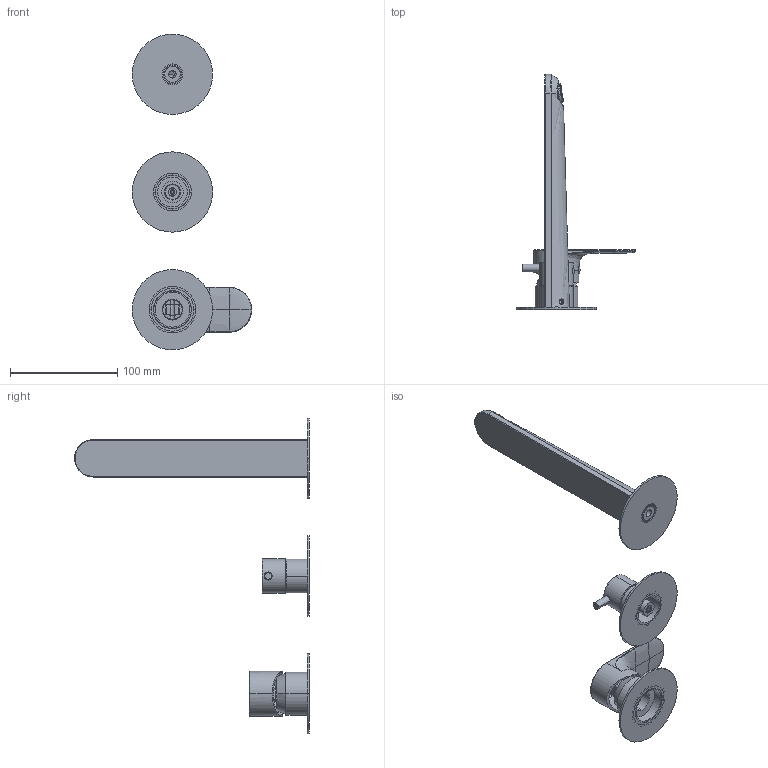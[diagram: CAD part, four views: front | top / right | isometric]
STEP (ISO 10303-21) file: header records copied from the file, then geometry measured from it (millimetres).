
FILE_DESCRIPTION((''),'2;1');
FILE_NAME('3D_SW0001','2024-10-04T10:48:12',('volponeff'),(''),'CREO PARAMETRIC BY PTC INC, 2022014','CREO PARAMETRIC BY PTC INC, 2022014','');
FILE_SCHEMA(('CONFIG_CONTROL_DESIGN'));
Products named in the file (1): 3D_SW0001
Bounding box: 111.5 x 219.5 x 295 mm (x, y, z)
Volume: 177325.8 mm3; surface area: 111302.2 mm2
Topology: 7 solids, 7 shells, 5282 faces, 13802 edges, 8888 vertices
Faces by surface type: plane 3550, cylinder 910, cone 548, bspline 158, torus 93, sphere 21, extrusion 2
Entity records: 253944 total; most frequent: CARTESIAN_POINT 137027, ORIENTED_EDGE 27552, DIRECTION 18562, EDGE_CURVE 13776, VERTEX_POINT 8889, B_SPLINE_CURVE_WITH_KNOTS 6650, AXIS2_PLACEMENT_3D 6310, VECTOR 5942
